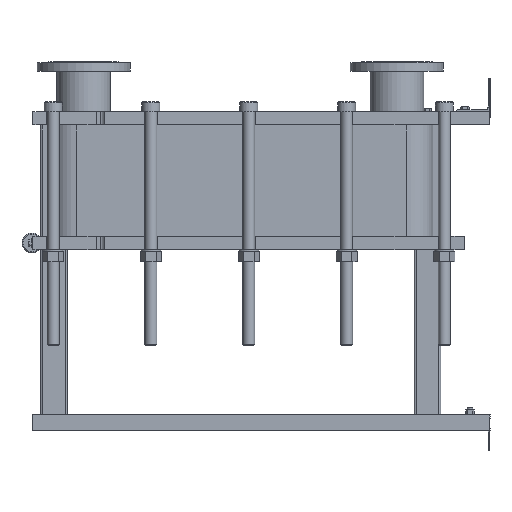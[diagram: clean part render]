
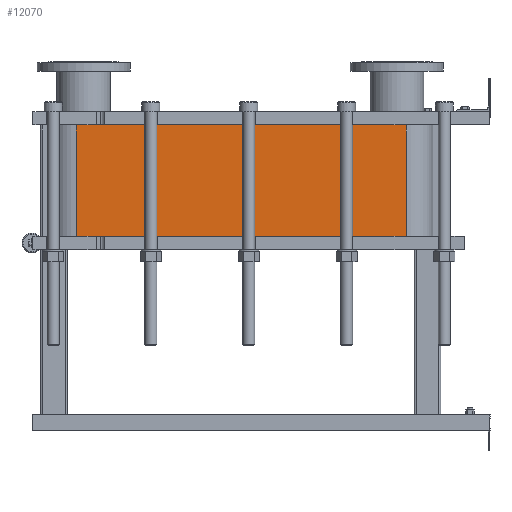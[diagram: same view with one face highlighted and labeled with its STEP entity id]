
A CAD part, left-side view. The second image highlights one B-rep face of the part: STEP entity #12070.
In plain terms, the highlighted planar face has unit normal (-1, 0, 0).
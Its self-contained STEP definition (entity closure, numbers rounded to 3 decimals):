
#1064=LINE('',#21140,#2164);
#1065=LINE('',#21144,#2165);
#1066=LINE('',#21146,#2166);
#1067=LINE('',#21147,#2167);
#2164=VECTOR('',#15790,10.);
#2165=VECTOR('',#15795,10.);
#2166=VECTOR('',#15796,10.);
#2167=VECTOR('',#15797,10.);
#3304=FACE_OUTER_BOUND('',#4091,.T.);
#4091=EDGE_LOOP('',(#9793,#9794,#9795,#9796));
#5677=VERTEX_POINT('',#21137);
#5678=VERTEX_POINT('',#21139);
#5679=VERTEX_POINT('',#21143);
#5680=VERTEX_POINT('',#21145);
#7118=EDGE_CURVE('',#5678,#5677,#1064,.T.);
#7120=EDGE_CURVE('',#5677,#5679,#1065,.T.);
#7121=EDGE_CURVE('',#5680,#5679,#1066,.T.);
#7122=EDGE_CURVE('',#5680,#5678,#1067,.T.);
#9793=ORIENTED_EDGE('',*,*,#7120,.T.);
#9794=ORIENTED_EDGE('',*,*,#7121,.F.);
#9795=ORIENTED_EDGE('',*,*,#7122,.T.);
#9796=ORIENTED_EDGE('',*,*,#7118,.T.);
#11441=PLANE('',#13191);
#12070=ADVANCED_FACE('',(#3304),#11441,.T.);
#13191=AXIS2_PLACEMENT_3D('',#21142,#15793,#15794);
#15790=DIRECTION('',(0.,0.,-1.));
#15793=DIRECTION('center_axis',(-1.,0.,0.));
#15794=DIRECTION('ref_axis',(0.,1.,0.));
#15795=DIRECTION('',(0.,-1.,0.));
#15796=DIRECTION('',(0.,0.,-1.));
#15797=DIRECTION('',(0.,1.,0.));
#21137=CARTESIAN_POINT('',(-248.152,1243.818,-334.65));
#21139=CARTESIAN_POINT('',(-248.152,1243.818,0.));
#21140=CARTESIAN_POINT('',(-248.152,1243.818,0.));
#21142=CARTESIAN_POINT('Origin',(-248.152,251.818,0.));
#21143=CARTESIAN_POINT('',(-248.152,251.818,-334.65));
#21144=CARTESIAN_POINT('',(-248.152,499.818,-334.65));
#21145=CARTESIAN_POINT('',(-248.152,251.818,0.));
#21146=CARTESIAN_POINT('',(-248.152,251.818,0.));
#21147=CARTESIAN_POINT('',(-248.152,251.818,0.));
